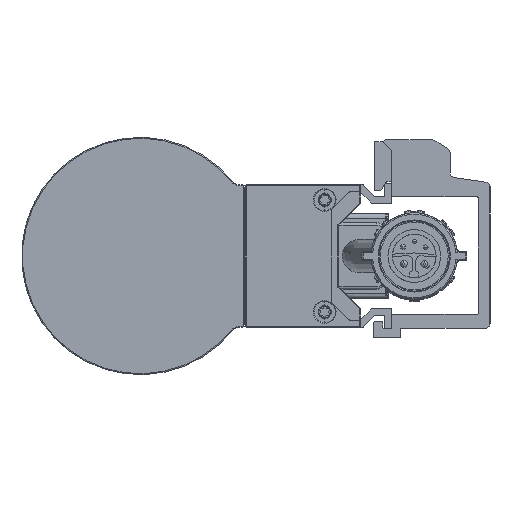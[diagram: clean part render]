
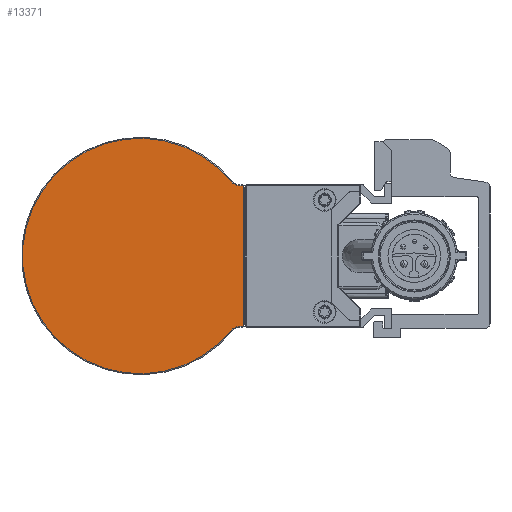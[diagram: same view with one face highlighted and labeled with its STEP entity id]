
A CAD part, left-side view. The second image highlights one B-rep face of the part: STEP entity #13371.
In plain terms, the highlighted planar face has unit normal (-1, 0, 0).
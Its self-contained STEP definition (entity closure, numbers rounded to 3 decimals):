
#71 = CIRCLE ( 'NONE', #53569, 0.3 ) ;
#586 = AXIS2_PLACEMENT_3D ( 'NONE', #49522, #24877, #64863 ) ;
#1479 = CARTESIAN_POINT ( 'NONE',  ( -300., 32.025, -14.8 ) ) ;
#1768 = ORIENTED_EDGE ( 'NONE', *, *, #23079, .T. ) ;
#2389 = CARTESIAN_POINT ( 'NONE',  ( -300., 53.001, 0. ) ) ;
#2975 = VERTEX_POINT ( 'NONE', #43796 ) ;
#4751 = CIRCLE ( 'NONE', #586, 0.3 ) ;
#5464 = CARTESIAN_POINT ( 'NONE',  ( -300., 31.5, -14.8 ) ) ;
#5991 = DIRECTION ( 'NONE',  ( 1., 0., 0. ) ) ;
#6561 = EDGE_CURVE ( 'NONE', #2975, #56464, #62668, .T. ) ;
#7097 = VECTOR ( 'NONE', #21586, 1000. ) ;
#7228 = DIRECTION ( 'NONE',  ( -1., 0., 0. ) ) ;
#8486 = CIRCLE ( 'NONE', #45284, 24.8 ) ;
#9222 = CARTESIAN_POINT ( 'NONE',  ( -300., 31.2, 14.5 ) ) ;
#9757 = VECTOR ( 'NONE', #18903, 1000. ) ;
#11841 = ORIENTED_EDGE ( 'NONE', *, *, #55185, .T. ) ;
#12921 = FACE_OUTER_BOUND ( 'NONE', #53606, .T. ) ;
#13371 = ADVANCED_FACE ( 'NONE', ( #12921 ), #33028, .T. ) ;
#14017 = VERTEX_POINT ( 'NONE', #48464 ) ;
#14436 = VERTEX_POINT ( 'NONE', #20764 ) ;
#14785 = DIRECTION ( 'NONE',  ( 0., 0., 1. ) ) ;
#17331 = AXIS2_PLACEMENT_3D ( 'NONE', #28740, #53012, #23487 ) ;
#17559 = VERTEX_POINT ( 'NONE', #25265 ) ;
#17706 = CARTESIAN_POINT ( 'NONE',  ( -300., 31.5, 14.8 ) ) ;
#18001 = CARTESIAN_POINT ( 'NONE',  ( -300., 32.025, 14.8 ) ) ;
#18903 = DIRECTION ( 'NONE',  ( 0., 1., 0. ) ) ;
#20764 = CARTESIAN_POINT ( 'NONE',  ( -300., 32.025, -14.8 ) ) ;
#21586 = DIRECTION ( 'NONE',  ( 0., -1., 0. ) ) ;
#22351 = ORIENTED_EDGE ( 'NONE', *, *, #6561, .T. ) ;
#23079 = EDGE_CURVE ( 'NONE', #14436, #27451, #46548, .T. ) ;
#23487 = DIRECTION ( 'NONE',  ( 0., 0., 1. ) ) ;
#24877 = DIRECTION ( 'NONE',  ( -1., 0., 0. ) ) ;
#24926 = ORIENTED_EDGE ( 'NONE', *, *, #37162, .T. ) ;
#25265 = CARTESIAN_POINT ( 'NONE',  ( -300., 33.734, 15.614 ) ) ;
#26081 = DIRECTION ( 'NONE',  ( 0., 0., -1. ) ) ;
#27451 = VERTEX_POINT ( 'NONE', #5464 ) ;
#28176 = CARTESIAN_POINT ( 'NONE',  ( -300., 31.2, -14.5 ) ) ;
#28740 = CARTESIAN_POINT ( 'NONE',  ( -300., 53.001, 0. ) ) ;
#29477 = VERTEX_POINT ( 'NONE', #28176 ) ;
#30134 = CIRCLE ( 'NONE', #63608, 2.2 ) ;
#33028 = PLANE ( 'NONE',  #17331 ) ;
#34921 = CARTESIAN_POINT ( 'NONE',  ( -300., 32.025, 17. ) ) ;
#35116 = CIRCLE ( 'NONE', #47763, 2.2 ) ;
#35190 = LINE ( 'NONE', #39126, #42122 ) ;
#35920 = EDGE_CURVE ( 'NONE', #56464, #17559, #35116, .T. ) ;
#36574 = DIRECTION ( 'NONE',  ( -1., 0., 0. ) ) ;
#37162 = EDGE_CURVE ( 'NONE', #46581, #2975, #4751, .T. ) ;
#39126 = CARTESIAN_POINT ( 'NONE',  ( -300., 31.2, -14.5 ) ) ;
#40143 = DIRECTION ( 'NONE',  ( 1., 0., 0. ) ) ;
#42122 = VECTOR ( 'NONE', #14785, 1000. ) ;
#43796 = CARTESIAN_POINT ( 'NONE',  ( -300., 31.5, 14.8 ) ) ;
#44046 = ORIENTED_EDGE ( 'NONE', *, *, #49996, .T. ) ;
#45284 = AXIS2_PLACEMENT_3D ( 'NONE', #2389, #36574, #52659 ) ;
#46548 = LINE ( 'NONE', #1479, #7097 ) ;
#46581 = VERTEX_POINT ( 'NONE', #9222 ) ;
#47763 = AXIS2_PLACEMENT_3D ( 'NONE', #34921, #5991, #26081 ) ;
#48464 = CARTESIAN_POINT ( 'NONE',  ( -300., 33.734, -15.615 ) ) ;
#49155 = EDGE_CURVE ( 'NONE', #29477, #46581, #35190, .T. ) ;
#49522 = CARTESIAN_POINT ( 'NONE',  ( -300., 31.5, 14.5 ) ) ;
#49717 = DIRECTION ( 'NONE',  ( 0., 0.777, 0.63 ) ) ;
#49996 = EDGE_CURVE ( 'NONE', #27451, #29477, #71, .T. ) ;
#51810 = ORIENTED_EDGE ( 'NONE', *, *, #35920, .T. ) ;
#52256 = CARTESIAN_POINT ( 'NONE',  ( -300., 31.5, -14.5 ) ) ;
#52659 = DIRECTION ( 'NONE',  ( 0., -0.777, 0.63 ) ) ;
#52877 = DIRECTION ( 'NONE',  ( 0., 0., -1. ) ) ;
#53012 = DIRECTION ( 'NONE',  ( -1., 0., 0. ) ) ;
#53569 = AXIS2_PLACEMENT_3D ( 'NONE', #52256, #7228, #52877 ) ;
#53606 = EDGE_LOOP ( 'NONE', ( #1768, #44046, #54360, #24926, #22351, #51810, #11841, #58259 ) ) ;
#54360 = ORIENTED_EDGE ( 'NONE', *, *, #49155, .T. ) ;
#55185 = EDGE_CURVE ( 'NONE', #17559, #14017, #8486, .T. ) ;
#56464 = VERTEX_POINT ( 'NONE', #18001 ) ;
#58259 = ORIENTED_EDGE ( 'NONE', *, *, #63670, .T. ) ;
#62668 = LINE ( 'NONE', #17706, #9757 ) ;
#63608 = AXIS2_PLACEMENT_3D ( 'NONE', #64413, #40143, #49717 ) ;
#63670 = EDGE_CURVE ( 'NONE', #14017, #14436, #30134, .T. ) ;
#64413 = CARTESIAN_POINT ( 'NONE',  ( -300., 32.025, -17. ) ) ;
#64863 = DIRECTION ( 'NONE',  ( 0., -1., 0. ) ) ;
